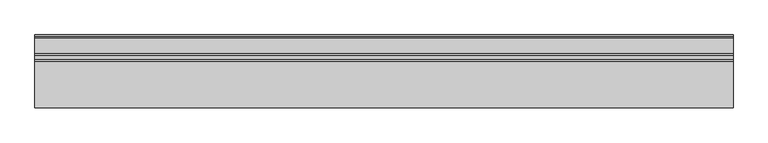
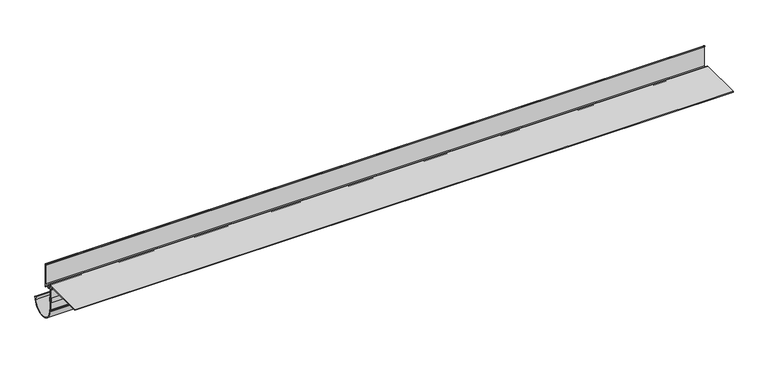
"""IFC4 building model written with IfcOpenShell, lengths in millimetres: proxy geometry, W35 Profil okapowy prosty : Renoplast."""

from ifc_helpers import new_model, si_unit, point, frame, frame_2d, origin, place, context, project, spatial, polyline, circle_curve, trimmed, segment, composite_curve, outline, extrude, source, transform, mapped, element, save
from ifc_brep_helpers import plane_surface, cylinder_surface, revolved_surface, advanced_brep


def generic_models_27867270(model_context):
    return source(origin(), model_context, "Body", "SolidModel", [
        extrude(outline(composite_curve([segment(polyline([(-16.2735812, -80.1470817), (-17.3, -80.1470817), (-17.3, -71.8647019), (-16.2735812, -71.8647019), (-16.2735812, -56.0), (-15.0771553, -56.0), (-15.0771553, -73.8652393), (-13.5916529, -73.8652393), (-13.5916529, -71.8647019), (-12.5916529, -71.8647019), (-12.5916529, -80.1470817), (-13.5916529, -80.1470817), (-13.5916529, -78.1458102), (-15.0771553, -78.1458102), (-15.0771553, -94.6477207), (-11.9837886, -97.7410874)]), True, "CONTINUOUS"), segment(trimmed(circle_curve(frame_2d((11.7, -100.0901637)), 23.8), [point((-11.9837886, -97.7410874))], [point((35.0266303, -104.8133319))], True, "CARTESIAN"), True, "CONTINUOUS"), segment(trimmed(circle_curve(frame_2d((34.4544934, -102.0693536)), 2.8029909), [point((35.0266303, -104.8133319))], [point((33.8823565, -99.3253752))], False, "CARTESIAN"), True, "CONTINUOUS"), segment(trimmed(circle_curve(frame_2d((34.4544934, -102.0693536)), 2.8029909), [point((33.8823565, -99.3253752))], [point((36.69821, -100.3893256))], False, "CARTESIAN"), True, "CONTINUOUS"), segment(trimmed(circle_curve(frame_2d((11.7, -100.0901637)), 25.0), [point((36.69821, -100.3893256))], [point((-13.2966871, -100.4971445))], False, "CARTESIAN"), True, "CONTINUOUS"), segment(polyline([(-13.2966871, -100.4971445), (-14.8456235, -100.0821082), (-15.2042537, -98.7436822), (-13.2279836, -99.2732221), (-13.2279836, -98.1939486), (-16.2735812, -95.1483511), (-16.2735812, -80.1470817)]), True, "CONTINUOUS")], self_intersect=False)), frame((0.0, 0.0, 0.0), z_axis=(1.0, 0.0, 0.0), x_axis=(0.0, 1.0, 0.0)), (0.0, 0.0, 1.0), 1265.4500928),
        advanced_brep(
        [(0.0, 0.0010677, -12.3), (0.0, 2.5010677, -15.1358001), (0.0, 2.5010677, -60.5974817), (0.0, 1.0010677, -59.3464967), (0.0, 1.0010677, -55.1212515), (0.0, -8.5231229, -55.1212515), (0.0, -8.5231229, -56.6478406), (0.0, -10.049712, -55.1212515), (0.0, -13.5989323, -55.1212515), (0.0, -13.5989323, -88.5), (0.0, -15.0989323, -88.5), (0.0, -15.0989323, -48.8260527), (0.0, -20.0989323, -48.8260527), (0.0, -20.0989323, -51.8230238), (0.0, -21.5989323, -51.8230238), (0.0, -21.5989323, -48.8260527), (0.0, -95.0989323, -48.8260527), (0.0, -95.0989323, -47.3), (0.0, -11.0612599, -47.3), (0.0, -8.4435317, -50.1427162), (0.0, -9.9454403, -50.1551438), (0.0, -11.3457599, -48.8260527), (0.0, -13.1366439, -48.8260527), (0.0, -13.1366439, -53.6212515), (0.0, 1.0010677, -53.6212515), (0.0, 1.0010677, -15.1358001), (0.0, 0.0010677, -14.1358001), (1265.4500928, 0.0010677, -12.3), (1265.4500928, 0.0010677, -14.1358001), (1265.4500928, 1.0010677, -15.1358001), (1265.4500928, 1.0010677, -53.6212515), (1265.4500928, -13.1366439, -53.6212515), (1265.4500928, -13.1366439, -48.8260527), (1265.4500928, -11.3457599, -48.8260527), (1265.4500928, -9.9454403, -50.1551438), (1265.4500928, -8.4435317, -50.1551438), (1265.4500928, -11.0612599, -47.3), (1265.4500928, -95.0989323, -47.3), (1265.4500928, -95.0989323, -48.8260527), (1265.4500928, -21.5989323, -48.8260527), (1265.4500928, -21.5989323, -51.8230238), (1265.4500928, -20.0989323, -51.8230238), (1265.4500928, -20.0989323, -48.8260527), (1265.4500928, -15.0989323, -48.8260527), (1265.4500928, -15.0989323, -88.5), (1265.4500928, -13.5989323, -88.5), (1265.4500928, -13.5989323, -55.1212515), (1265.4500928, -10.049712, -55.1212515), (1265.4500928, -8.5231229, -56.6478406), (1265.4500928, -8.5231229, -55.1212515), (1265.4500928, 1.0010677, -55.1212515), (1265.4500928, 1.0010677, -59.3464967), (1265.4500928, 2.5010677, -60.5974817), (1265.4500928, 2.5010677, -15.1358001)],
        [
            (0, 1, circle_curve(frame((0.0, -0.4087938, -15.1812097), z_axis=(-1.0, 0.0, 0.0), x_axis=(0.0, 1.0, 0.0)), 2.9102158)),
            (1, 2),
            (2, 3),
            (3, 4),
            (4, 5),
            (5, 6),
            (6, 7),
            (7, 8),
            (8, 9),
            (9, 10),
            (10, 11),
            (11, 12),
            (12, 13),
            (13, 14),
            (14, 15),
            (15, 16),
            (16, 17),
            (17, 18),
            (18, 19, circle_curve(frame((0.0, -11.0612599, -49.9266316), z_axis=(-1.0, 0.0, 0.0), x_axis=(0.0, -1.0, 0.0)), 2.6266316)),
            (19, 20),
            (20, 21, circle_curve(frame((0.0, -11.3457599, -50.2282809), z_axis=(1.0, 0.0, 0.0), x_axis=(0.0, -1.0, 0.0)), 1.4022282)),
            (21, 22),
            (22, 23),
            (23, 24),
            (24, 25),
            (25, 26, circle_curve(frame((0.0, 0.0010677, -15.1358001), z_axis=(1.0, 0.0, 0.0), x_axis=(0.0, 1.0, 0.0)), 1.0)),
            (26, 0),
            (27, 28),
            (28, 29, circle_curve(frame((1265.4500928, 0.0010677, -15.1358001), z_axis=(-1.0, 0.0, 0.0), x_axis=(0.0, 1.0, 0.0)), 1.0)),
            (29, 30),
            (30, 31),
            (31, 32),
            (32, 33),
            (33, 34, circle_curve(frame((1265.4500928, -11.3457599, -50.2282809), z_axis=(-1.0, 0.0, 0.0), x_axis=(0.0, -1.0, 0.0)), 1.4022282)),
            (34, 35),
            (35, 36, circle_curve(frame((1265.4500928, -11.0612599, -49.9266316), z_axis=(1.0, 0.0, 0.0), x_axis=(0.0, -1.0, 0.0)), 2.6266316)),
            (36, 37),
            (37, 38),
            (38, 39),
            (39, 40),
            (40, 41),
            (41, 42),
            (42, 43),
            (43, 44),
            (44, 45),
            (45, 46),
            (46, 47),
            (47, 48),
            (48, 49),
            (49, 50),
            (50, 51),
            (51, 52),
            (52, 53),
            (53, 27, circle_curve(frame((1265.4500928, -0.4087938, -15.1812097), z_axis=(1.0, 0.0, 0.0), x_axis=(0.0, 1.0, 0.0)), 2.9102158)),
            (26, 28),
            (27, 0),
            (25, 29),
            (24, 30),
            (23, 31),
            (22, 32),
            (21, 33),
            (20, 34),
            (19, 35),
            (18, 36),
            (17, 37),
            (16, 38),
            (15, 39),
            (14, 40),
            (13, 41),
            (12, 42),
            (11, 43),
            (10, 44),
            (9, 45),
            (8, 46),
            (7, 47),
            (6, 48),
            (5, 49),
            (4, 50),
            (3, 51),
            (2, 52),
            (1, 53),
        ],
        [
            plane_surface(frame((0.0, 0.0, 0.0), z_axis=(-1.0, 0.0, 0.0), x_axis=(0.0, 0.0, 1.0))),
            plane_surface(frame((1265.4500928, 0.0, 0.0), z_axis=(1.0, 0.0, 0.0), x_axis=(0.0, 0.0, 1.0))),
            plane_surface(frame((0.0, 0.0010677, -12.3), z_axis=(0.0, -1.0, 0.0), x_axis=(1.0, 0.0, 0.0))),
            revolved_surface(polyline([(1265.4500928, 1.0010677, -15.1358001), (0.0, 1.0010677, -15.1358001)]), (0.0, 0.0010677, -15.1358001), (1.0, 0.0, 0.0)),
            plane_surface(frame((0.0, 1.0010677, -15.1358001), z_axis=(0.0, -1.0, 0.0), x_axis=(1.0, 0.0, 0.0))),
            plane_surface(frame((0.0, -7.7310535, -53.6212515), z_axis=(0.0, 0.0, 1.0), x_axis=(1.0, 0.0, 0.0))),
            plane_surface(frame((0.0, -13.1366439, -53.6212515), z_axis=(0.0, 1.0, 0.0), x_axis=(1.0, 0.0, 0.0))),
            plane_surface(frame((0.0, -13.1366439, -48.8260527), z_axis=(0.0, 0.0, -1.0), x_axis=(1.0, 0.0, 0.0))),
            revolved_surface(polyline([(1265.4500928, -12.747988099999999, -50.2282809), (0.0, -12.747988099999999, -50.2282809)]), (0.0, -11.3457599, -50.2282809), (1.0, 0.0, 0.0)),
            plane_surface(frame((0.0, -9.9454403, -50.1551438), z_axis=(0.0, 0.0, -1.0), x_axis=(1.0, 0.0, 0.0))),
            cylinder_surface(frame((0.0, -11.0612599, -49.9266316), z_axis=(-1.0, 0.0, 0.0), x_axis=(0.0, -1.0, 0.0)), 2.6266316),
            plane_surface(frame((0.0, -11.0612599, -47.3), z_axis=(0.0, 0.0, 1.0), x_axis=(1.0, 0.0, 0.0))),
            plane_surface(frame((0.0, -95.0989323, -47.3), z_axis=(0.0, -1.0, 0.0), x_axis=(1.0, 0.0, 0.0))),
            plane_surface(frame((0.0, -95.0989323, -48.8260527), z_axis=(0.0, 0.0, -1.0), x_axis=(1.0, 0.0, 0.0))),
            plane_surface(frame((0.0, -21.5989323, -48.8260527), z_axis=(0.0, -1.0, 0.0), x_axis=(1.0, 0.0, 0.0))),
            plane_surface(frame((0.0, -21.5989323, -51.8230238), z_axis=(0.0, 0.0, -1.0), x_axis=(1.0, 0.0, 0.0))),
            plane_surface(frame((0.0, -20.0989323, -51.8230238), z_axis=(0.0, 1.0, 0.0), x_axis=(1.0, 0.0, 0.0))),
            plane_surface(frame((0.0, -20.0989323, -48.8260527), z_axis=(0.0, 0.0, -1.0), x_axis=(1.0, 0.0, 0.0))),
            plane_surface(frame((0.0, -15.0989323, -48.8260527), z_axis=(0.0, -1.0, 0.0), x_axis=(1.0, 0.0, 0.0))),
            plane_surface(frame((0.0, -15.0989323, -88.5), z_axis=(0.0, 0.0, -1.0), x_axis=(1.0, 0.0, 0.0))),
            plane_surface(frame((0.0, -13.5989323, -88.5), z_axis=(0.0, 1.0, 0.0), x_axis=(1.0, 0.0, 0.0))),
            plane_surface(frame((0.0, -13.5989323, -55.1212515), z_axis=(0.0, 0.0, -1.0), x_axis=(1.0, 0.0, 0.0))),
            plane_surface(frame((0.0, -10.049712, -55.1212515), z_axis=(0.0, -0.7071067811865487, -0.7071067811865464), x_axis=(1.0, 0.0, 0.0))),
            plane_surface(frame((0.0, -8.5231229, -56.6478406), z_axis=(0.0, 1.0, 0.0), x_axis=(1.0, 0.0, 0.0))),
            plane_surface(frame((0.0, 0.0, -55.1212515), z_axis=(0.0, 0.0, -1.0), x_axis=(1.0, 0.0, 0.0))),
            plane_surface(frame((0.0, 1.0010677, -55.1212515), z_axis=(0.0, -1.0, 0.0), x_axis=(1.0, 0.0, 0.0))),
            plane_surface(frame((0.0, 1.0010677, -59.3464967), z_axis=(0.0, -0.6404819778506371, -0.767973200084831), x_axis=(1.0, 0.0, 0.0))),
            plane_surface(frame((0.0, 2.5010677, -60.5974817), z_axis=(0.0, 1.0, 0.0), x_axis=(1.0, 0.0, 0.0))),
            cylinder_surface(frame((0.0, -0.4087938, -15.1812097), z_axis=(-1.0, 0.0, 0.0), x_axis=(0.0, 1.0, 0.0)), 2.9102158),
        ],
        [
            (0, [[1, 2, 3, 4, 5, 6, 7, 8, 9, 10, 11, 12, 13, 14, 15, 16, 17, 18, 19, 20, 21, 22, 23, 24, 25, 26, 27]]),
            (1, [[28, 29, 30, 31, 32, 33, 34, 35, 36, 37, 38, 39, 40, 41, 42, 43, 44, 45, 46, 47, 48, 49, 50, 51, 52, 53, 54]]),
            (2, [[55, -28, 56, -27]]),
            (3, [[57, -29, -55, -26]]),
            (4, [[58, -30, -57, -25]]),
            (5, [[-24, 59, -31, -58]]),
            (6, [[60, -32, -59, -23]]),
            (7, [[61, -33, -60, -22]]),
            (8, [[62, -34, -61, -21]]),
            (9, [[63, -35, -62, -20]]),
            (10, [[64, -36, -63, -19]]),
            (11, [[65, -37, -64, -18]]),
            (12, [[66, -38, -65, -17]]),
            (13, [[67, -39, -66, -16]]),
            (14, [[68, -40, -67, -15]]),
            (15, [[69, -41, -68, -14]]),
            (16, [[70, -42, -69, -13]]),
            (17, [[71, -43, -70, -12]]),
            (18, [[72, -44, -71, -11]]),
            (19, [[73, -45, -72, -10]]),
            (20, [[74, -46, -73, -9]]),
            (21, [[75, -47, -74, -8]]),
            (22, [[76, -48, -75, -7]]),
            (23, [[77, -49, -76, -6]]),
            (24, [[-5, 78, -50, -77]]),
            (25, [[79, -51, -78, -4]]),
            (26, [[80, -52, -79, -3]]),
            (27, [[81, -53, -80, -2]]),
            (28, [[-56, -54, -81, -1]]),
        ],
    ),
    ])


if __name__ == "__main__":
    model = new_model("IFC4")
    model_context = context("Model", 3, world=origin())
    ifc_project = project(units=[si_unit("LENGTHUNIT", "METRE", prefix="MILLI")], contexts=[model_context])
    site = spatial("IfcSite", under=ifc_project)
    building = spatial("IfcBuilding", under=site)
    placement = place(None, origin())
    generic_models_shape = generic_models_27867270(model_context)
    element("IfcBuildingElementProxy", 1, Name="W35 Profil okapowy prosty : Renoplast", ObjectType="W35 Profil okapowy prosty : Renoplast", at=placement, inside=building, context=model_context, shape_type="MappedRepresentation", body=[
        mapped(generic_models_shape, transform((0.0, 0.0, 0.0), x_axis=(1.0, 0.0, 0.0), y_axis=(0.0, 1.0, 0.0), z_axis=(0.0, 0.0, 1.0))),
    ])
    save(model, "model.ifc")
